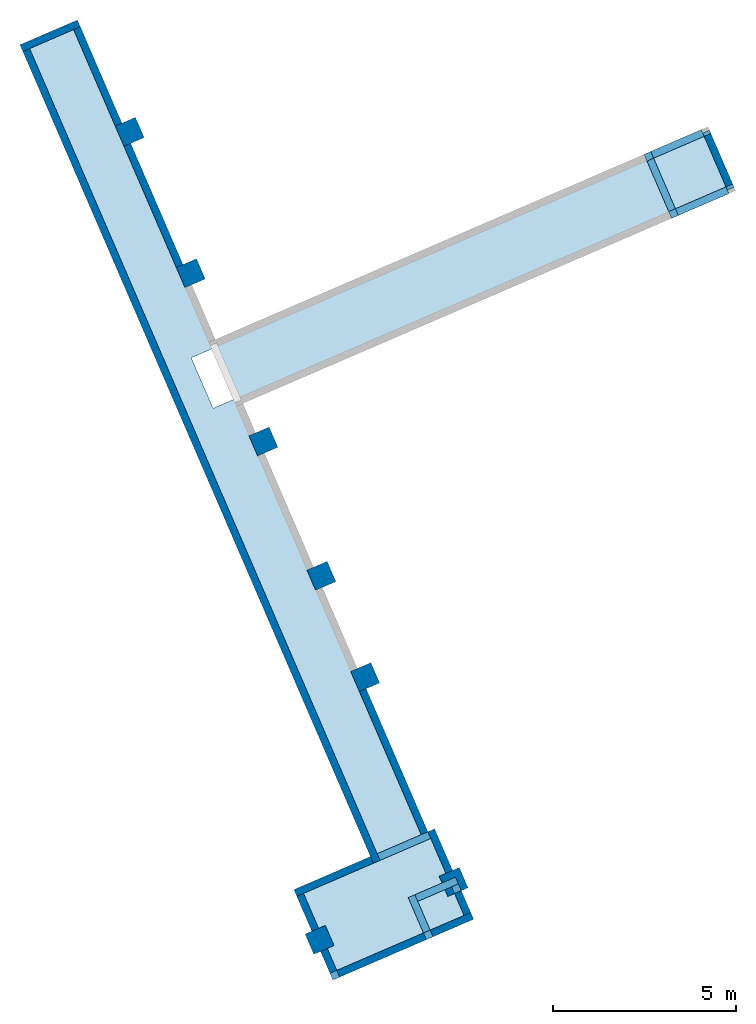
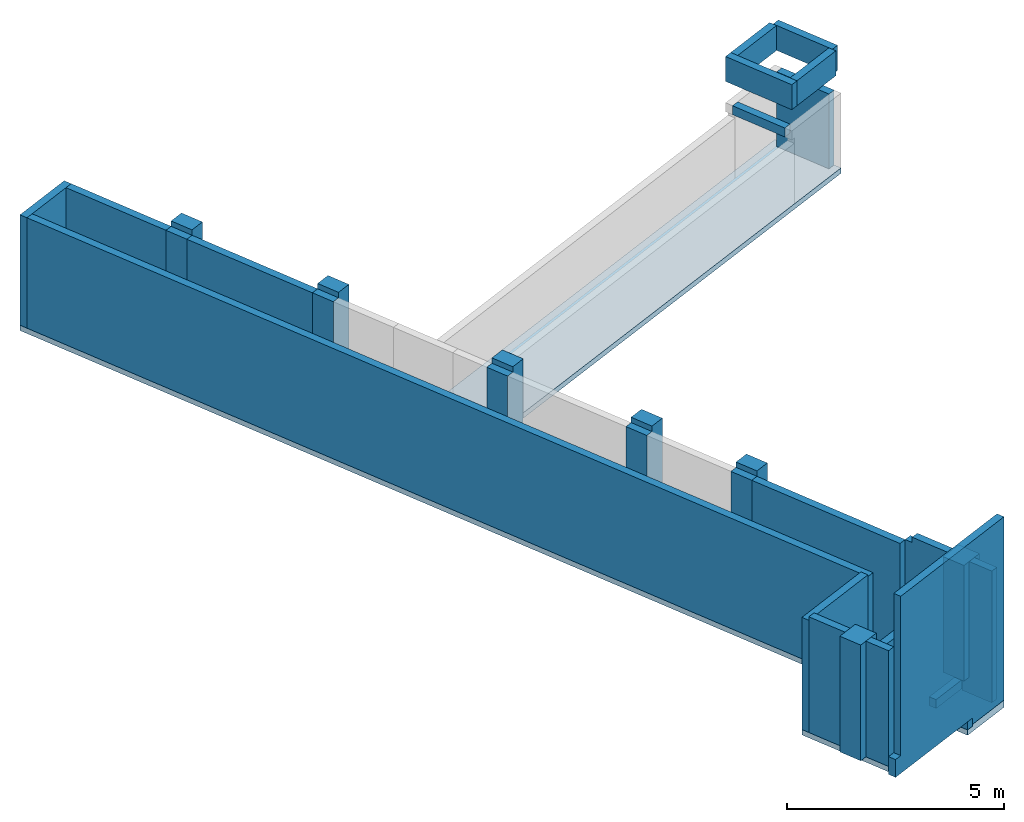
# One storey, part 1 of 2: 20 walls, 7 columns, 3 slabs, 1 opening.
"""IFC4 building model written with IfcOpenShell, lengths in metres."""

from ifc_helpers import new_model, entity, si_unit, converted_unit, derived_unit, direction, frame, origin, place, context, subcontext, project, spatial, indexed_curve, outline, extrude, polygons, source, transform, mapped, material, type_object, type_shapes, element, save


model = new_model("IFC4")

# Units and contexts
model_context = context("Model", 3, precision=1e-05, world=origin(), true_north=direction((6.123233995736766e-17, 1.0)))
body_context = subcontext(model_context, "Body", "Model", "MODEL_VIEW")
ifc_project = project(units=[si_unit("LENGTHUNIT", "METRE"), si_unit("AREAUNIT", "SQUARE_METRE"), si_unit("VOLUMEUNIT", "CUBIC_METRE"), converted_unit("PLANEANGLEUNIT", "DEGREE", entity("IfcPlaneAngleMeasure", 0.017453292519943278), si_unit("PLANEANGLEUNIT", "RADIAN"), dimensions=[0, 0, 0, 0, 0, 0, 0]), derived_unit("THERMALTRANSMITTANCEUNIT", [(si_unit("MASSUNIT", "GRAM", prefix="KILO"), 1), (si_unit("THERMODYNAMICTEMPERATUREUNIT", "KELVIN"), -1), (si_unit("TIMEUNIT", "SECOND"), -3)]), derived_unit("USERDEFINED", [(si_unit("MASSUNIT", "GRAM", prefix="KILO"), 1), (si_unit("THERMODYNAMICTEMPERATUREUNIT", "KELVIN"), -1), (si_unit("TIMEUNIT", "SECOND"), -2)]), derived_unit("THERMALRESISTANCEUNIT", [(si_unit("MASSUNIT", "GRAM", prefix="KILO"), -1), (si_unit("TIMEUNIT", "SECOND"), 3), (si_unit("THERMODYNAMICTEMPERATUREUNIT", "KELVIN"), 1)]), si_unit("MASSUNIT", "GRAM", prefix="KILO"), derived_unit("MOMENTOFINERTIAUNIT", [(si_unit("LENGTHUNIT", "METRE"), 4)]), derived_unit("LINEARFORCEUNIT", [(si_unit("MASSUNIT", "GRAM", prefix="KILO"), 1), (si_unit("TIMEUNIT", "SECOND"), -2)]), derived_unit("WARPINGCONSTANTUNIT", [(si_unit("LENGTHUNIT", "METRE"), 6)])], contexts=[model_context])

# Site, building, storey
site_placement = place(None, origin())
site = spatial("IfcSite", under=ifc_project, at=site_placement, Name="Default", CompositionType="ELEMENT")
building_placement = place(site_placement, frame((-21.752541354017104, -73.50235179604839, 317.2999999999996), z_axis=(0.0, 0.0, 1.0), x_axis=(-0.39637753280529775, 0.918087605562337, 0.0)))
building = spatial("IfcBuilding", under=site, at=building_placement, Name="CESFAM Coyhaique", CompositionType="ELEMENT")
storey_placement = place(building_placement, frame((0.0, 0.0, -3.7999999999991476)))
storey = spatial("IfcBuildingStorey", under=building, at=storey_placement, Name="Subterráneo 1", CompositionType="ELEMENT", Elevation=-3.7999999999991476)

# Columns
ifc_material = material(Name="HA")
column_type_1 = type_object("IfcColumnType", Name="M_Concrete-Square-Column:600 x 600mm", PredefinedType="COLUMN", material=ifc_material)
shared_shape_1 = source(origin(), body_context, "Body", "SweptSolid", [
    extrude(outline(indexed_curve([(-0.3, -0.3), (0.3, -0.3), (0.3, 0.3), (-0.3, 0.3), (-0.3, -0.3)], self_intersect=False)), frame((0.0, 0.0, -3.7999999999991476), z_axis=(0.0, 0.0, 1.0), x_axis=(-1.0, 0.0, 0.0)), (0.0, 0.0, 1.0), 3.2500000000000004),
])
type_shapes(column_type_1, [shared_shape_1])
for number, where, name in (
    (1, (-11.760106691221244, 5.818258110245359, 3.7999999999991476), "M_Concrete-Square-Column:600 x 600mm"),
    (2, (-11.760106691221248, 1.8382581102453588, 3.7999999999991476), "M_Concrete-Square-Column:600 x 600mm"),
):
    element("IfcColumn", number, at=place(storey_placement, frame(where)), inside=storey, type_object=column_type_1, Name=name, ObjectType="M_Concrete-Square-Column:600 x 600mm", PredefinedType="COLUMN", context=body_context, shape_type="MappedRepresentation", body=[
        mapped(shared_shape_1, transform((0.0, 0.0, 0.0), scale=1.0)),
    ])
column_type_2 = type_object("IfcColumnType", Name="M_Concrete-Square-Column:600 x 600mm", PredefinedType="COLUMN", material=ifc_material)
shared_shape_2 = source(origin(), body_context, "Body", "SweptSolid", [
    extrude(outline(indexed_curve([(-2.1166666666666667, -0.26666666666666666), (0.9833333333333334, -0.26666666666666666), (0.9833333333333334, -0.06666666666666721), (1.1333333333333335, -0.06666666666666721), (1.1333333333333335, 0.33333333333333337), (-2.1166666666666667, 0.33333333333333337), (-2.1166666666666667, -0.26666666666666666)], self_intersect=False)), frame((-5.975106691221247, 1.8715914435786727, -1.6833333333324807), z_axis=(1.0, 0.0, 0.0), x_axis=(0.0, 0.0, 1.0)), (0.0, 0.0, 1.0), 0.6000000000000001),
])
type_shapes(column_type_2, [shared_shape_2])
column_1_placement = place(storey_placement, frame((0.0, 0.0, 3.7999999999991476)))
element("IfcColumn", 3, at=column_1_placement, inside=storey, type_object=column_type_2, Name="M_Concrete-Square-Column:600 x 600mm", ObjectType="M_Concrete-Square-Column:600 x 600mm", PredefinedType="COLUMN", context=body_context, shape_type="MappedRepresentation", body=[
    mapped(shared_shape_2, transform((0.0, 0.0, 0.0), scale=1.0)),
])
column_type_3 = type_object("IfcColumnType", Name="M_Concrete-Square-Column:600 x 600mm", PredefinedType="COLUMN", material=ifc_material)
shared_shape_3 = source(origin(), body_context, "Body", "SweptSolid", [
    extrude(outline(indexed_curve([(-2.1166666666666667, -0.26666666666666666), (0.9833333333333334, -0.26666666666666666), (0.9833333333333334, -0.06666666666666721), (1.1333333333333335, -0.06666666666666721), (1.1333333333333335, 0.33333333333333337), (-2.1166666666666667, 0.33333333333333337), (-2.1166666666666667, -0.26666666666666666)], self_intersect=False)), frame((-2.965106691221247, 1.871591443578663, -1.6833333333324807), z_axis=(1.0, 0.0, 0.0), x_axis=(0.0, 0.0, 1.0)), (0.0, 0.0, 1.0), 0.5999999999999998),
])
type_shapes(column_type_3, [shared_shape_3])
column_2_placement = place(storey_placement, frame((0.0, 0.0, 3.7999999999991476)))
element("IfcColumn", 4, at=column_2_placement, inside=storey, type_object=column_type_3, Name="M_Concrete-Square-Column:600 x 600mm", ObjectType="M_Concrete-Square-Column:600 x 600mm", PredefinedType="COLUMN", context=body_context, shape_type="MappedRepresentation", body=[
    mapped(shared_shape_3, transform((0.0, 0.0, 0.0), scale=1.0)),
])
column_type_4 = type_object("IfcColumnType", Name="M_Concrete-Square-Column:600 x 600mm", PredefinedType="COLUMN", material=ifc_material)
shared_shape_4 = source(origin(), body_context, "Body", "SweptSolid", [
    extrude(outline(indexed_curve([(-2.1166666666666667, -0.26666666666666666), (0.9833333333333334, -0.26666666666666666), (0.9833333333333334, -0.06666666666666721), (1.1333333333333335, -0.06666666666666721), (1.1333333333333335, 0.33333333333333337), (-2.1166666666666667, 0.33333333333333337), (-2.1166666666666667, -0.26666666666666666)], self_intersect=False)), frame((1.0248933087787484, 1.87159144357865, -1.6833333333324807), z_axis=(1.0, 0.0, 0.0), x_axis=(0.0, 0.0, 1.0)), (0.0, 0.0, 1.0), 0.5999999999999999),
])
type_shapes(column_type_4, [shared_shape_4])
column_3_placement = place(storey_placement, frame((0.0, 0.0, 3.7999999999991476)))
element("IfcColumn", 5, at=column_3_placement, inside=storey, type_object=column_type_4, Name="M_Concrete-Square-Column:600 x 600mm", ObjectType="M_Concrete-Square-Column:600 x 600mm", PredefinedType="COLUMN", context=body_context, shape_type="MappedRepresentation", body=[
    mapped(shared_shape_4, transform((0.0, 0.0, 0.0), scale=1.0)),
])
column_type_5 = type_object("IfcColumnType", Name="M_Concrete-Square-Column:600 x 600mm", PredefinedType="COLUMN", material=ifc_material)
shared_shape_5 = source(origin(), body_context, "Body", "SweptSolid", [
    extrude(outline(indexed_curve([(-2.1166666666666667, -0.26666666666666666), (0.9833333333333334, -0.26666666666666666), (0.9833333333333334, -0.06666666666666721), (1.1333333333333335, -0.06666666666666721), (1.1333333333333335, 0.33333333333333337), (-2.1166666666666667, 0.33333333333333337), (-2.1166666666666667, -0.26666666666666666)], self_intersect=False)), frame((6.024893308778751, 1.8715914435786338, -1.6833333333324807), z_axis=(1.0, 0.0, 0.0), x_axis=(0.0, 0.0, 1.0)), (0.0, 0.0, 1.0), 0.6000000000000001),
])
type_shapes(column_type_5, [shared_shape_5])
column_4_placement = place(storey_placement, frame((0.0, 0.0, 3.7999999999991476)))
element("IfcColumn", 6, at=column_4_placement, inside=storey, type_object=column_type_5, Name="M_Concrete-Square-Column:600 x 600mm", ObjectType="M_Concrete-Square-Column:600 x 600mm", PredefinedType="COLUMN", context=body_context, shape_type="MappedRepresentation", body=[
    mapped(shared_shape_5, transform((0.0, 0.0, 0.0), scale=1.0)),
])
column_type_6 = type_object("IfcColumnType", Name="M_Concrete-Square-Column:600 x 600mm", PredefinedType="COLUMN", material=ifc_material)
shared_shape_6 = source(origin(), body_context, "Body", "SweptSolid", [
    extrude(outline(indexed_curve([(-2.1166666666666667, -0.26666666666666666), (0.9833333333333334, -0.26666666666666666), (0.9833333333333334, -0.06666666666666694), (1.1333333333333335, -0.06666666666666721), (1.1333333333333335, 0.33333333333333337), (-2.1166666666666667, 0.33333333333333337), (-2.1166666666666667, -0.26666666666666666)], self_intersect=False)), frame((10.22489330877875, 1.8715914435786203, -1.6833333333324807), z_axis=(1.0, 0.0, 0.0), x_axis=(0.0, 0.0, 1.0)), (0.0, 0.0, 1.0), 0.6000000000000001),
])
type_shapes(column_type_6, [shared_shape_6])
column_5_placement = place(storey_placement, frame((0.0, 0.0, 3.7999999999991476)))
element("IfcColumn", 7, at=column_5_placement, inside=storey, type_object=column_type_6, Name="M_Concrete-Square-Column:600 x 600mm", ObjectType="M_Concrete-Square-Column:600 x 600mm", PredefinedType="COLUMN", context=body_context, shape_type="MappedRepresentation", body=[
    mapped(shared_shape_6, transform((0.0, 0.0, 0.0), scale=1.0)),
])

# Slabs
slab_type_1 = type_object("IfcSlabType", Name="Foundation Slab:150mm Foundation Slab", PredefinedType="BASESLAB", material=ifc_material)
slab_1_placement = place(storey_placement, origin())
element("IfcSlab", 8, at=slab_1_placement, inside=storey, type_object=slab_type_1, material=ifc_material, Name="Foundation Slab:150mm Foundation Slab", ObjectType="Foundation Slab:150mm Foundation Slab", PredefinedType="BASESLAB", context=body_context, shape_type="SweptSolid", body=[
    extrude(outline(indexed_curve([(0.5126279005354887, -12.441764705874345), (3.4926279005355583, -12.441764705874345), (3.4926279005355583, -9.956764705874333), (1.2179535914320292, -9.956764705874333), (1.2179535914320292, 14.158235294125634), (-0.4873720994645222, 14.158235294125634), (-0.4873720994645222, 11.093235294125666), (-0.2873720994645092, 11.093235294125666), (-0.2873720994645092, 10.493235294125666), (-0.4873720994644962, 10.493235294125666), (-0.4873720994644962, 6.893235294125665), (-0.2873720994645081, 6.893235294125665), (-0.2873720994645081, 6.293235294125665), (-0.4873720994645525, 6.293235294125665), (-0.4873720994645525, 4.468235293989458), (0.31262790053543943, 4.468235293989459), (0.31262790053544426, 2.968235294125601), (-0.4873720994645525, 2.9682352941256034), (-0.4873720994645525, 1.8932352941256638), (-0.28737209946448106, 1.8932352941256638), (-0.28737209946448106, 1.2932352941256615), (-0.4873720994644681, 1.2932352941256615), (-0.4873720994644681, -2.0967647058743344), (-0.2873720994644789, -2.0967647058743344), (-0.2873720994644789, -2.6967647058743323), (-0.48737209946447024, -2.6967647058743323), (-0.48737209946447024, -5.106764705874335), (-0.2873720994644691, -5.106764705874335), (-0.2873720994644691, -5.706764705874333), (-0.4873720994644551, -5.706764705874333), (-0.4873720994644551, -9.956764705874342), (-0.6873720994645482, -9.956764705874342), (-0.6873720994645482, -11.591764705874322), (0.5126279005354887, -11.591764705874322), (0.5126279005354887, -12.441764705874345)], self_intersect=False)), frame((-0.2683419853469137, 2.425630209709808, 0.0), z_axis=(0.0, 0.0, -1.0), x_axis=(0.0, 1.0, 0.0)), (0.0, 0.0, 1.0), 0.15000000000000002),
])
slab_2_placement = place(storey_placement, origin())
element("IfcSlab", 9, at=slab_2_placement, inside=storey, type_object=slab_type_1, material=ifc_material, Name="Foundation Slab:150mm Foundation Slab", ObjectType="Foundation Slab:150mm Foundation Slab", PredefinedType="BASESLAB", context=body_context, shape_type="SweptSolid", body=[
    extrude(outline(indexed_curve([(-11.026283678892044, -0.9499999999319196), (3.608761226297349, -0.9499999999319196), (3.608761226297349, -0.7499999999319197), (3.808761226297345, -0.7499999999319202), (3.808761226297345, 0.7499999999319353), (3.608761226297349, 0.7499999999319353), (3.608761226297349, 0.9499999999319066), (-11.026283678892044, 0.9499999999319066), (-11.026283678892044, -0.9499999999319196)], self_intersect=False)), frame((3.449893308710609, -1.6705031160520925, 0.0), z_axis=(0.0, 0.0, -1.0), x_axis=(0.0, 1.0, 0.0)), (0.0, 0.0, 1.0), 0.15000000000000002),
])
slab_type_2 = type_object("IfcSlabType", Name="Foundation Slab:200mm Foundation Slab", PredefinedType="BASESLAB", material=ifc_material)
slab_3_placement = place(storey_placement, origin())
element("IfcSlab", 10, at=slab_3_placement, inside=storey, type_object=slab_type_2, material=ifc_material, Name="Foundation Slab:200mm Foundation Slab", ObjectType="Foundation Slab:200mm Foundation Slab", PredefinedType="BASESLAB", context=body_context, shape_type="SweptSolid", body=[
    extrude(outline(indexed_curve([(-0.7025001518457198, -0.6249999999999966), (0.702500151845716, -0.6249999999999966), (0.7025001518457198, 0.6249999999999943), (-0.7025001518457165, 0.6249999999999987), (-0.7025001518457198, -0.6249999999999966)], self_intersect=False)), frame((-12.285106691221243, 2.440758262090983, -0.3999999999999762), z_axis=(0.0, 0.0, -1.0), x_axis=(0.0, 1.0, 0.0)), (0.0, 0.0, 1.0), 0.2),
])

# Walls
wall_type = type_object("IfcWallType", Name="Basic Wall:Contención-HA_200mm", PredefinedType="STANDARD")
wall_1_placement = place(storey_placement, frame((-10.425106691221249, 3.5435838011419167, 0.0)))
element("IfcWall", 11, at=wall_1_placement, inside=storey, type_object=wall_type, material=ifc_material, Name="Basic Wall:Contención-HA_200mm", ObjectType="Basic Wall:Contención-HA_200mm", PredefinedType="NOTDEFINED", context=body_context, shape_type="SweptSolid", body=[
    extrude(outline(indexed_curve([(24.115000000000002, 0.10000000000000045), (-2.375644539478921e-16, 0.1), (2.375644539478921e-16, -0.1), (24.115000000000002, -0.09999999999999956), (24.115000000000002, 0.10000000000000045)], self_intersect=False)), origin(), (0.0, 0.0, 1.0), 3.1),
])
wall_2_placement = place(storey_placement, frame((2.699893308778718, -12.59678679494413, 0.0)))
element("IfcWall", 12, at=wall_2_placement, inside=storey, type_object=wall_type, material=ifc_material, Name="Basic Wall:Contención-HA_200mm", ObjectType="Basic Wall:Contención-HA_200mm", PredefinedType="NOTDEFINED", context=body_context, shape_type="SweptSolid", body=[
    extrude(outline(indexed_curve([(1.4999999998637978, 0.10000000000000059), (-3.9955126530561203e-16, 0.10000000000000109), (3.9955126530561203e-16, -0.10000000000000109), (1.4999999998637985, -0.1000000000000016), (1.4999999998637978, 0.10000000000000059)], self_intersect=False)), origin(), (0.0, 0.0, 1.0), 2.099999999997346),
])
wall_3_placement = place(storey_placement, frame((13.789893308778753, 3.64358380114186, 0.0), z_axis=(0.0, 0.0, 1.0), x_axis=(0.0, -1.0, 0.0)))
element("IfcWall", 13, at=wall_3_placement, inside=storey, type_object=wall_type, material=ifc_material, Name="Basic Wall:Contención-HA_200mm", ObjectType="Basic Wall:Contención-HA_200mm", PredefinedType="NOTDEFINED", context=body_context, shape_type="SweptSolid", body=[
    extrude(outline(indexed_curve([(1.7053256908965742, 0.09999999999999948), (-1.6006979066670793e-16, 0.09999999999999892), (1.6006979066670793e-16, -0.09999999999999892), (1.7053256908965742, -0.09999999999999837), (1.7053256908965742, 0.09999999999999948)], self_intersect=False)), origin(), (0.0, 0.0, 1.0), 3.1),
])

# Wall, opening
wall_4_placement = place(storey_placement, frame((-12.71010669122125, 1.8382581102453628, -0.45)))
wall_4 = element("IfcWall", 14, at=wall_4_placement, inside=storey, type_object=wall_type, material=ifc_material, Name="Basic Wall:Contención-HA_200mm", ObjectType="Basic Wall:Contención-HA_200mm", PredefinedType="NOTDEFINED", context=body_context, shape_type="Tessellation", body=[
    polygons([(3.544356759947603e-16, -0.1, -5.414335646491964e-16), (0.8500000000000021, -0.10000000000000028, -5.414335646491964e-16), (0.8500000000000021, -0.10000000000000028, 0.050000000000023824), (0.8500000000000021, -0.10000000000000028, 0.30000000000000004), (0.8500000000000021, -0.10000000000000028, 0.45), (0.6500000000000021, -0.1, 0.45), (0.6500000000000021, -0.1, 3.7), (3.544356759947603e-16, -0.1, 3.7), (0.8500000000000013, 0.09999999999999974, -5.414335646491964e-16), (-3.523370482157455e-16, 0.1, -5.414335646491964e-16), (-3.523370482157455e-16, 0.1, 3.7), (0.6500000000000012, 0.1, 3.7), (0.6500000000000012, 0.1, 0.45), (0.8500000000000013, 0.09999999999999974, 0.45), (0.8500000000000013, 0.09999999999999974, 0.30000000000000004)], [[[1, 2, 3, 4, 5, 6, 7, 8]], [[9, 10, 11, 12, 13, 14, 15]], [[2, 1, 10, 9]], [[6, 5, 14, 13]], [[7, 6, 13, 12]], [[8, 7, 12, 11]], [[1, 8, 11, 10]], [[2, 9, 15, 14, 5, 4, 3]]], closed=True),
])
opening_placement = place(wall_4_placement, origin())
element("IfcOpeningElement", 15, at=opening_placement, cuts=wall_4, Name="Basic Wall:Contención-HA_200mm", PredefinedType="OPENING", context=body_context, shape_type="SweptSolid", body=[
    extrude(outline(indexed_curve([(-1.6250000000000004, -0.14999999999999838), (1.6249999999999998, -0.14999999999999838), (1.6249999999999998, 0.15000000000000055), (-1.6250000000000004, 0.15000000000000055), (-1.6250000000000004, -0.14999999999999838)], self_intersect=False)), frame((0.8000000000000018, 0.1, 2.0750000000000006), z_axis=(0.0, -1.0, 0.0), x_axis=(0.0, 0.0, 1.0)), (0.0, 0.0, 1.0), 0.2),
])

# Walls
wall_5_placement = place(storey_placement, frame((2.500100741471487, -10.89661691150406, 2.699999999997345)))
element("IfcWall", 16, at=wall_5_placement, inside=storey, type_object=wall_type, material=ifc_material, Name="Basic Wall:Contención-HA_200mm", ObjectType="Basic Wall:Contención-HA_200mm", PredefinedType="NOTDEFINED", context=body_context, shape_type="SweptSolid", body=[
    extrude(outline(indexed_curve([(1.8999999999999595, 0.10000000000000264), (-4.239328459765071e-16, 0.10000000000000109), (4.239328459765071e-16, -0.10000000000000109), (1.8999999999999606, -0.09999999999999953), (1.8999999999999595, 0.10000000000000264)], self_intersect=False)), origin(), (0.0, 0.0, 1.0), 0.6999999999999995),
])
wall_6_placement = place(storey_placement, frame((-10.325106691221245, 5.918258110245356, 0.0), z_axis=(0.0, 0.0, 1.0), x_axis=(0.0, -1.0, 0.0)))
element("IfcWall", 17, at=wall_6_placement, inside=storey, type_object=wall_type, material=ifc_material, Name="Basic Wall:Contención-HA_200mm", ObjectType="Basic Wall:Contención-HA_200mm", PredefinedType="NOTDEFINED", context=body_context, shape_type="Tessellation", body=[
    polygons([(0.0, -0.09999999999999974, 0.0), (0.2000000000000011, -0.09999999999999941, 0.0), (2.2746743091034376, -0.09999999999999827, 0.0), (2.274674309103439, -0.09999999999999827, 3.1), (2.274674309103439, -0.09999999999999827, 3.1500000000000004), (0.0, -0.09999999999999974, 3.1500000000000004), (2.2746743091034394, 0.10000000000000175, 0.0), (1.0828671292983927e-15, 0.10000000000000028, 0.0), (1.0828671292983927e-15, 0.10000000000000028, 3.1500000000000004), (2.2746743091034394, 0.10000000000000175, 3.1500000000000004)], [[[1, 2, 3, 4, 5, 6]], [[7, 8, 9, 10]], [[3, 2, 1, 8, 7]], [[8, 1, 6, 9]], [[3, 7, 10, 5, 4]], [[6, 5, 10, 9]]], closed=True),
])
wall_7_placement = place(storey_placement, frame((-12.810106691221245, 5.918258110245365, -0.39999999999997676), z_axis=(0.0, 0.0, 1.0), x_axis=(0.0, -1.0, 0.0)))
element("IfcWall", 18, at=wall_7_placement, inside=storey, type_object=wall_type, material=ifc_material, Name="Basic Wall:Contención-HA_200mm", ObjectType="Basic Wall:Contención-HA_200mm", PredefinedType="NOTDEFINED", context=body_context, shape_type="Tessellation", body=[
    polygons([(-8.881784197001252e-16, -0.10000000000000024, 0.17746728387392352), (2.7749996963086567, -0.09999999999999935, 0.17746728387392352), (2.974999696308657, -0.09999999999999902, 0.17746728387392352), (2.974999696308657, -0.09999999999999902, 8.881784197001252e-16), (4.18, -0.10000000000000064, 8.881784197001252e-16), (4.180000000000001, -0.10000000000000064, 0.6774672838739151), (4.18, -0.10000000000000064, 5.1499988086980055), (3.9800000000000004, -0.10000000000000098, 5.149998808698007), (2.1874998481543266, -0.10000000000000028, 5.149998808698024), (1.9874998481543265, -0.09999999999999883, 5.149998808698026), (0.1999999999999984, -0.09999999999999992, 5.149998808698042), (0.1999999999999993, -0.09999999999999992, 0.6774672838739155), (-8.881784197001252e-16, -0.10000000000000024, 0.6774672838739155), (2.9749996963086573, 0.10000000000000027, 0.17746728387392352), (2.774999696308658, 0.09999999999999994, 0.17746728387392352), (8.881784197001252e-16, 0.10000000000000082, 0.17746728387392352), (8.881784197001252e-16, 0.10000000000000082, 0.3999999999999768), (8.881784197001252e-16, 0.10000000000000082, 0.6774672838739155), (0.1999999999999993, 0.10000000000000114, 0.6774672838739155), (0.1999999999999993, 0.10000000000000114, 5.149998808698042), (4.1800000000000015, 0.10000000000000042, 5.1499988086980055), (4.1800000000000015, 0.10000000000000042, 3.6499999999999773), (4.1800000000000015, 0.10000000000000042, 8.881784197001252e-16), (2.9749996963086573, 0.10000000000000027, 8.881784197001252e-16)], [[[1, 2, 3, 4, 5, 6, 7, 8, 9, 10, 11, 12, 13]], [[14, 15, 16, 17, 18, 19, 20, 21, 22, 23, 24]], [[21, 7, 6, 5, 23, 22]], [[1, 13, 18, 17, 16]], [[12, 11, 20, 19]], [[3, 2, 1, 16, 15, 14]], [[11, 10, 9, 8, 7, 21, 20]], [[19, 18, 13, 12]], [[3, 14, 24, 4]], [[5, 4, 24, 23]]], closed=True),
])
wall_8_placement = place(storey_placement, frame((-10.425106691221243, 5.818258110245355, 0.0), z_axis=(0.0, 0.0, 1.0), x_axis=(-1.0, 0.0, 0.0)))
element("IfcWall", 19, at=wall_8_placement, inside=storey, type_object=wall_type, material=ifc_material, Name="Basic Wall:Contención-HA_200mm", ObjectType="Basic Wall:Contención-HA_200mm", PredefinedType="NOTDEFINED", context=body_context, shape_type="SweptSolid", body=[
    extrude(outline(indexed_curve([(1.0350000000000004, 0.10000000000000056), (-3.6745098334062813e-16, 0.1), (3.6745098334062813e-16, -0.1), (1.0350000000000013, -0.09999999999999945), (1.0350000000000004, 0.10000000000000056)], self_intersect=False)), origin(), (0.0, 0.0, 1.0), 3.2500000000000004),
])
wall_9_placement = place(storey_placement, frame((-11.760106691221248, 2.943258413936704, -0.39999999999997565), z_axis=(0.0, 0.0, 1.0), x_axis=(0.0, -1.0, 0.0)))
element("IfcWall", 20, at=wall_9_placement, inside=storey, type_object=wall_type, material=ifc_material, Name="Basic Wall:Contención-HA_200mm", ObjectType="Basic Wall:Contención-HA_200mm", PredefinedType="NOTDEFINED", context=body_context, shape_type="Tessellation", body=[
    polygons([(0.0, -0.09999999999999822, -5.414335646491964e-16), (1.2050003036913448, -0.09999999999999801, -5.414335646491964e-16), (1.2050003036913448, -0.09999999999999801, 0.24999999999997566), (0.005000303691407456, -0.09999999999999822, 0.24999999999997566), (0.0, -0.09999999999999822, 0.24999999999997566), (1.2050003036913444, 0.100000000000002, -5.414335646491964e-16), (0.0, 0.1000000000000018, -5.414335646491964e-16), (0.0, 0.1000000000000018, 0.24999999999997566), (1.2050003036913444, 0.100000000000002, 0.24999999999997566)], [[[1, 2, 3, 4, 5]], [[6, 7, 8, 9]], [[2, 1, 7, 6]], [[2, 6, 9, 3]], [[4, 3, 9, 8, 5]], [[7, 1, 5, 8]]], closed=True),
])
wall_10_placement = place(storey_placement, frame((-12.910106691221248, 3.043258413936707, -0.45)))
element("IfcWall", 21, at=wall_10_placement, inside=storey, type_object=wall_type, material=ifc_material, Name="Basic Wall:Contención-HA_200mm", ObjectType="Basic Wall:Contención-HA_200mm", PredefinedType="NOTDEFINED", context=body_context, shape_type="Tessellation", body=[
    polygons([(9.00635364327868e-16, -0.10000000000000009, -8.881784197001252e-16), (1.2500000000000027, -0.09999999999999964, -8.881784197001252e-16), (1.2500000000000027, -0.09999999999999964, 0.0500000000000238), (1.2500000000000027, -0.09999999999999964, 0.2999999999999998), (1.2500000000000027, -0.09999999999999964, 0.44999999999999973), (0.20000000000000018, -0.10000000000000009, 0.44999999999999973), (0.20000000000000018, -0.10000000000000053, 0.22746728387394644), (9.00635364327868e-16, -0.10000000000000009, 0.22746728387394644), (9.00635364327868e-16, -0.10000000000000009, 0.0500000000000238), (3.5830114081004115e-16, 0.10000000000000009, -8.881784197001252e-16), (3.5830114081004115e-16, 0.10000000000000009, 0.22746728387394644), (0.19999999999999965, 0.10000000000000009, 0.22746728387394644), (0.19999999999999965, 0.10000000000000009, 0.44999999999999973), (1.2500000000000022, 0.10000000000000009, 0.44999999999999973), (1.2500000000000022, 0.10000000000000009, -8.881784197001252e-16)], [[[1, 2, 3, 4, 5, 6, 7, 8, 9]], [[10, 11, 12, 13, 14, 15]], [[2, 1, 10, 15]], [[6, 5, 14, 13]], [[5, 4, 3, 2, 15, 14]], [[1, 9, 8, 11, 10]], [[7, 6, 13, 12]], [[7, 12, 11, 8]]], closed=True),
])
wall_11_placement = place(storey_placement, frame((-10.325106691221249, 3.4435838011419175, 0.0), z_axis=(0.0, 0.0, 1.0), x_axis=(0.0, -1.0, 0.0)))
element("IfcWall", 22, at=wall_11_placement, inside=storey, type_object=wall_type, material=ifc_material, Name="Basic Wall:Contención-HA_200mm", ObjectType="Basic Wall:Contención-HA_200mm", PredefinedType="NOTDEFINED", context=body_context, shape_type="SweptSolid", body=[
    extrude(outline(indexed_curve([(1.5053256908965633, 0.09999999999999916), (-1.6006979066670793e-16, 0.09999999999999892), (1.6006979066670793e-16, -0.09999999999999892), (1.5053256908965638, -0.09999999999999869), (1.5053256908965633, 0.09999999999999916)], self_intersect=False)), origin(), (0.0, 0.0, 1.0), 0.8),
])
wall_12_placement = place(storey_placement, frame((2.5998933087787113, -12.596786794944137, 2.699999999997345)))
element("IfcWall", 23, at=wall_12_placement, inside=storey, type_object=wall_type, material=ifc_material, Name="Basic Wall:Contención-HA_200mm", ObjectType="Basic Wall:Contención-HA_200mm", PredefinedType="NOTDEFINED", context=body_context, shape_type="SweptSolid", body=[
    extrude(outline(indexed_curve([(1.6999999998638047, 0.10000000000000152), (1.0278285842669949e-16, 0.10000000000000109), (-1.0278285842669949e-16, -0.10000000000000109), (1.6999999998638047, -0.10000000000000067), (1.6999999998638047, 0.10000000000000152)], self_intersect=False)), origin(), (0.0, 0.0, 1.0), 0.6999999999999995),
])
wall_13_placement = place(storey_placement, frame((4.300100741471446, -10.996616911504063, 2.699999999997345), z_axis=(0.0, 0.0, 1.0), x_axis=(0.0, -1.0, 0.0)))
element("IfcWall", 24, at=wall_13_placement, inside=storey, type_object=wall_type, material=ifc_material, Name="Basic Wall:Contención-HA_200mm", ObjectType="Basic Wall:Contención-HA_200mm", PredefinedType="NOTDEFINED", context=body_context, shape_type="SweptSolid", body=[
    extrude(outline(indexed_curve([(1.5000001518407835, 0.10000000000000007), (1.4753478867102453e-15, 0.1), (6.903863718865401e-16, -0.1), (1.500000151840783, -0.09999999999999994), (1.5000001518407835, 0.10000000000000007)], self_intersect=False)), origin(), (0.0, 0.0, 1.0), 0.6999999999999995),
])
wall_14_placement = place(storey_placement, frame((2.6001007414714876, -10.99661691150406, 2.699999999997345), z_axis=(0.0, 0.0, 1.0), x_axis=(0.0, -1.0, 0.0)))
element("IfcWall", 25, at=wall_14_placement, inside=storey, type_object=wall_type, material=ifc_material, Name="Basic Wall:Contención-HA_200mm", ObjectType="Basic Wall:Contención-HA_200mm", PredefinedType="NOTDEFINED", context=body_context, shape_type="SweptSolid", body=[
    extrude(outline(indexed_curve([(1.5000001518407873, 0.09999999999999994), (6.903863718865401e-16, 0.1), (1.4753478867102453e-15, -0.1), (1.500000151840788, -0.10000000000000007), (1.5000001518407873, 0.09999999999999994)], self_intersect=False)), origin(), (0.0, 0.0, 1.0), 0.6999999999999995),
])
wall_15_placement = place(storey_placement, frame((-12.060106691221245, 5.818258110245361, 0.0), z_axis=(0.0, 0.0, 1.0), x_axis=(-1.0, 0.0, 0.0)))
element("IfcWall", 26, at=wall_15_placement, inside=storey, type_object=wall_type, material=ifc_material, Name="Basic Wall:Contención-HA_200mm", ObjectType="Basic Wall:Contención-HA_200mm", PredefinedType="NOTDEFINED", context=body_context, shape_type="SweptSolid", body=[
    extrude(outline(indexed_curve([(0.6499999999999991, 0.10000000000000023), (-3.6745098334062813e-16, 0.1), (3.6745098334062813e-16, -0.1), (0.6499999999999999, -0.09999999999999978), (0.6499999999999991, 0.10000000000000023)], self_intersect=False)), origin(), (0.0, 0.0, 1.0), 3.2500000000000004),
])
wall_16_placement = place(storey_placement, frame((-11.460106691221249, 1.8382581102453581, 0.0)))
element("IfcWall", 27, at=wall_16_placement, inside=storey, type_object=wall_type, material=ifc_material, Name="Basic Wall:Contención-HA_200mm", ObjectType="Basic Wall:Contención-HA_200mm", PredefinedType="NOTDEFINED", context=body_context, shape_type="Tessellation", body=[
    polygons([(3.544356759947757e-16, -0.1, 3.2500000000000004), (3.544356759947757e-16, -0.1, 0.0), (1.2349999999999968, -0.09999999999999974, 0.0), (1.2349999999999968, -0.09999999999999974, 3.1), (1.0350000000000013, -0.10000000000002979, 3.1), (1.0350000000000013, -0.09999999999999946, 3.2500000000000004), (-3.5233704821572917e-16, 0.1, 0.0), (-3.5233704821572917e-16, 0.1, 3.2500000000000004), (1.0350000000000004, 0.10000000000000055, 3.2500000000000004), (1.0350000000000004, 0.10000000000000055, 3.1), (1.234999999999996, 0.10000000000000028, 3.1), (1.234999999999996, 0.10000000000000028, 0.0)], [[[1, 2, 3, 4, 5, 6]], [[7, 8, 9, 10, 11, 12]], [[10, 5, 4, 11]], [[5, 10, 9, 6]], [[3, 12, 11, 4]], [[8, 1, 6, 9]], [[2, 1, 8, 7]], [[3, 2, 7, 12]]], closed=True),
])
wall_17_placement = place(storey_placement, frame((-10.225106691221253, 2.0382581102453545, 0.0)))
element("IfcWall", 28, at=wall_17_placement, inside=storey, type_object=wall_type, material=ifc_material, Name="Basic Wall:Contención-HA_200mm", ObjectType="Basic Wall:Contención-HA_200mm", PredefinedType="NOTDEFINED", context=body_context, shape_type="Tessellation", body=[
    polygons([(-3.523370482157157e-16, -0.1, 0.0), (4.250000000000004, -0.09999999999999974, 0.0), (4.250000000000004, -0.09999999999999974, 3.1), (-3.523370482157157e-16, -0.1, 3.1), (4.250000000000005, 0.10000000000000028, 0.0), (-1.0591097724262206e-15, 0.1, 0.0), (-1.0591097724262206e-15, 0.1, 3.1), (4.250000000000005, 0.10000000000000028, 3.1)], [[[1, 2, 3, 4]], [[5, 6, 7, 8]], [[2, 5, 8, 3]], [[2, 1, 6, 5]], [[6, 1, 4, 7]], [[4, 3, 8, 7]]], closed=True),
])
wall_18_placement = place(storey_placement, frame((6.62489330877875, 2.038258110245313, 0.0)))
element("IfcWall", 29, at=wall_18_placement, inside=storey, type_object=wall_type, material=ifc_material, Name="Basic Wall:Contención-HA_200mm", ObjectType="Basic Wall:Contención-HA_200mm", PredefinedType="NOTDEFINED", context=body_context, shape_type="SweptSolid", body=[
    extrude(outline(indexed_curve([(3.600000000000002, 0.10000000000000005), (-3.5444237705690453e-16, 0.1), (3.5444237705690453e-16, -0.1), (3.600000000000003, -0.09999999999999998), (3.600000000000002, 0.10000000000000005)], self_intersect=False)), origin(), (0.0, 0.0, 1.0), 3.1),
])
wall_19_placement = place(storey_placement, frame((10.824893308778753, 2.038258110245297, 0.0)))
element("IfcWall", 30, at=wall_19_placement, inside=storey, type_object=wall_type, material=ifc_material, Name="Basic Wall:Contención-HA_200mm", ObjectType="Basic Wall:Contención-HA_200mm", PredefinedType="NOTDEFINED", context=body_context, shape_type="SweptSolid", body=[
    extrude(outline(indexed_curve([(2.8649999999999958, 0.10000000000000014), (-3.5444237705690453e-16, 0.1), (3.5444237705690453e-16, -0.1), (2.8649999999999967, -0.09999999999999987), (2.8649999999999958, 0.10000000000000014)], self_intersect=False)), origin(), (0.0, 0.0, 1.0), 3.1),
])
wall_20_placement = place(storey_placement, frame((2.6998933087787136, -10.896616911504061, 1.85)))
element("IfcWall", 31, at=wall_20_placement, inside=storey, type_object=wall_type, material=ifc_material, Name="Basic Wall:Contención-HA_200mm", ObjectType="Basic Wall:Contención-HA_200mm", PredefinedType="NOTDEFINED", context=body_context, shape_type="SweptSolid", body=[
    extrude(outline(indexed_curve([(1.4999999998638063, 0.09999999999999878), (-4.2393284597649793e-16, 0.09999999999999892), (4.2393284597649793e-16, -0.09999999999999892), (1.4999999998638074, -0.09999999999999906), (1.4999999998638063, 0.09999999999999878)], self_intersect=False)), origin(), (0.0, 0.0, 1.0), 0.24999999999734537),
])

save(model, "model.ifc")
